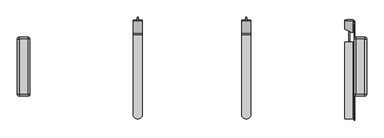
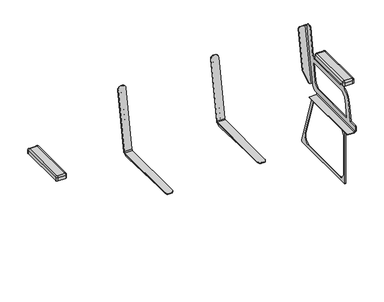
"""IFC4 building model written with IfcOpenShell, lengths in millimetres: furniture geometry, Roros Produkter - Trend - Bench - Backrest & Armrest - 32981 : Roros Produkter - Trend - Bench - Backrest & Armrest - 32981."""

from ifc_helpers import new_model, si_unit, point, frame, frame_2d, origin, place, context, project, spatial, polyline, circle_curve, ellipse_curve, trimmed, segment, composite_curve, outline, extrude, source, transform, mapped, element, save
from ifc_brep_helpers import plane_surface, cylinder_surface, revolved_surface, advanced_brep


def furniture_3cb17557(model_context):
    return source(origin(), model_context, "Body", "SolidModel", [
        advanced_brep(
        [(964.0, -180.9502129, 674.464), (964.0, -180.9502129, 653.464), (974.0, -170.9502129, 653.464), (974.0, -170.9502129, 674.464), (965.0, -170.9502129, 683.464), (964.0, -171.9502129, 683.464), (914.0, -180.9502129, 674.464), (914.0, -180.9502129, 653.464), (914.0, -171.9502129, 683.464), (904.0, -170.9502129, 674.464), (904.0, -170.9502129, 653.464), (913.0, -170.9502129, 683.464), (904.0, 139.0497871, 674.464), (904.0, 139.0497871, 653.464), (913.0, 139.0497871, 683.464), (914.0, 149.0497871, 674.464), (914.0, 149.0497871, 653.464), (914.0, 140.0497871, 683.464), (964.0, 149.0497871, 674.464), (964.0, 149.0497871, 653.464), (964.0, 140.0497871, 683.464), (974.0, 139.0497871, 674.464), (974.0, 139.0497871, 653.464), (965.0, 139.0497871, 683.464)],
        [
            (0, 1),
            (1, 2, circle_curve(frame((964.0, -170.9502129, 653.464), z_axis=(0.0, 0.0, 1.0), x_axis=(1.0, 0.0, 0.0)), 10.0)),
            (2, 3),
            (3, 0, circle_curve(frame((964.0, -170.9502129, 674.464), z_axis=(0.0, 0.0, -1.0), x_axis=(1.0, 0.0, 0.0)), 10.0)),
            (3, 4, circle_curve(frame((965.0, -170.9502129, 674.464), z_axis=(0.0, -1.0, 0.0), x_axis=(-1.0, 0.0, 0.0)), 9.0)),
            (4, 5, circle_curve(frame((964.0, -170.9502129, 683.464), z_axis=(0.0, 0.0, -1.0), x_axis=(1.0, 0.0, 0.0)), 1.0)),
            (5, 0, circle_curve(frame((964.0, -171.9502129, 674.464), z_axis=(1.0, 0.0, 0.0), x_axis=(0.0, 1.0, 0.0)), 9.0)),
            (0, 6),
            (6, 7),
            (7, 1),
            (5, 8),
            (8, 6, circle_curve(frame((914.0, -171.9502129, 674.464), z_axis=(1.0, 0.0, 0.0), x_axis=(0.0, 1.0, 0.0)), 9.0)),
            (6, 9, circle_curve(frame((914.0, -170.9502129, 674.464), z_axis=(0.0, 0.0, -1.0), x_axis=(0.0, -1.0, 0.0)), 10.0)),
            (9, 10),
            (10, 7, circle_curve(frame((914.0, -170.9502129, 653.464), z_axis=(0.0, 0.0, 1.0), x_axis=(0.0, -1.0, 0.0)), 10.0)),
            (8, 11, circle_curve(frame((914.0, -170.9502129, 683.464), z_axis=(0.0, 0.0, -1.0), x_axis=(0.0, -1.0, 0.0)), 1.0)),
            (11, 9, circle_curve(frame((913.0, -170.9502129, 674.464), z_axis=(0.0, -1.0, 0.0), x_axis=(1.0, 0.0, 0.0)), 9.0)),
            (9, 12),
            (12, 13),
            (13, 10),
            (11, 14),
            (14, 12, circle_curve(frame((913.0, 139.0497871, 674.464), z_axis=(0.0, -1.0, 0.0), x_axis=(1.0, 0.0, 0.0)), 9.0)),
            (12, 15, circle_curve(frame((914.0, 139.0497871, 674.464), z_axis=(0.0, 0.0, -1.0), x_axis=(-1.0, 0.0, 0.0)), 10.0)),
            (15, 16),
            (16, 13, circle_curve(frame((914.0, 139.0497871, 653.464), z_axis=(0.0, 0.0, 1.0), x_axis=(-1.0, 0.0, 0.0)), 10.0)),
            (14, 17, circle_curve(frame((914.0, 139.0497871, 683.464), z_axis=(0.0, 0.0, -1.0), x_axis=(-1.0, 0.0, 0.0)), 1.0)),
            (17, 15, circle_curve(frame((914.0, 140.0497871, 674.464), z_axis=(-1.0, 0.0, 0.0), x_axis=(0.0, -1.0, 0.0)), 9.0)),
            (15, 18),
            (18, 19),
            (19, 16),
            (17, 20),
            (20, 18, circle_curve(frame((964.0, 140.0497871, 674.464), z_axis=(-1.0, 0.0, 0.0), x_axis=(0.0, -1.0, 0.0)), 9.0)),
            (18, 21, circle_curve(frame((964.0, 139.0497871, 674.464), z_axis=(0.0, 0.0, -1.0), x_axis=(0.0, 1.0, 0.0)), 10.0)),
            (21, 22),
            (22, 19, circle_curve(frame((964.0, 139.0497871, 653.464), z_axis=(0.0, 0.0, 1.0), x_axis=(0.0, 1.0, 0.0)), 10.0)),
            (20, 23, circle_curve(frame((964.0, 139.0497871, 683.464), z_axis=(0.0, 0.0, -1.0), x_axis=(0.0, 1.0, 0.0)), 1.0)),
            (23, 21, circle_curve(frame((965.0, 139.0497871, 674.464), z_axis=(0.0, 1.0, 0.0), x_axis=(-1.0, 0.0, 0.0)), 9.0)),
            (2, 22),
            (21, 3),
            (23, 4),
        ],
        [
            cylinder_surface(frame((964.0, -170.9502129, 0.0), z_axis=(0.0, 0.0, 1.0), x_axis=(1.0, 0.0, 0.0)), 10.0),
            revolved_surface(trimmed(ellipse_curve(frame((965.0, -170.9502129, 674.464), z_axis=(0.0, -1.0, 0.0), x_axis=(-1.0, 0.0, 0.0)), 9.0, 9.0), [point((974.0, -170.9502129, 674.464))], [point((965.0, -170.9502129, 683.464))], True, "CARTESIAN"), (964.0, -170.9502129, 0.0), (0.0, 0.0, 1.0)),
            plane_surface(frame((964.0, -180.9502129, 653.464), z_axis=(0.0, -1.0, 0.0), x_axis=(-1.0, 0.0, 0.0))),
            cylinder_surface(frame((964.0, -171.9502129, 674.464), z_axis=(1.0, 0.0, 0.0), x_axis=(0.0, 1.0, 0.0)), 9.0),
            cylinder_surface(frame((914.0, -170.9502129, 0.0), z_axis=(0.0, 0.0, 1.0), x_axis=(0.0, -1.0, 0.0)), 10.0),
            revolved_surface(trimmed(ellipse_curve(frame((914.0, -171.9502129, 674.464), z_axis=(-1.0, 0.0, 0.0), x_axis=(0.0, 1.0, 0.0)), 9.0, 9.0), [point((914.0, -180.9502129, 674.464))], [point((914.0, -171.9502129, 683.464))], True, "CARTESIAN"), (914.0, -170.9502129, 0.0), (0.0, 0.0, 1.0)),
            plane_surface(frame((904.0, -170.9502129, 653.464), z_axis=(-1.0, 0.0, 0.0), x_axis=(0.0, 1.0, 0.0))),
            cylinder_surface(frame((913.0, -170.9502129, 674.464), z_axis=(0.0, -1.0, 0.0), x_axis=(1.0, 0.0, 0.0)), 9.0),
            cylinder_surface(frame((914.0, 139.0497871, 0.0), z_axis=(0.0, 0.0, 1.0), x_axis=(-1.0, 0.0, 0.0)), 10.0),
            revolved_surface(trimmed(ellipse_curve(frame((913.0, 139.0497871, 674.464), z_axis=(0.0, 1.0, 0.0), x_axis=(1.0, 0.0, 0.0)), 9.0, 9.0), [point((904.0, 139.0497871, 674.464))], [point((913.0, 139.0497871, 683.464))], True, "CARTESIAN"), (914.0, 139.0497871, 0.0), (0.0, 0.0, 1.0)),
            plane_surface(frame((914.0, 149.0497871, 653.464), z_axis=(0.0, 1.0, 0.0), x_axis=(1.0, 0.0, 0.0))),
            cylinder_surface(frame((914.0, 140.0497871, 674.464), z_axis=(-1.0, 0.0, 0.0), x_axis=(0.0, -1.0, 0.0)), 9.0),
            cylinder_surface(frame((964.0, 139.0497871, 0.0), z_axis=(0.0, 0.0, 1.0), x_axis=(0.0, 1.0, 0.0)), 10.0),
            revolved_surface(trimmed(ellipse_curve(frame((964.0, 140.0497871, 674.464), z_axis=(1.0, 0.0, 0.0), x_axis=(0.0, -1.0, 0.0)), 9.0, 9.0), [point((964.0, 149.0497871, 674.464))], [point((964.0, 140.0497871, 683.464))], True, "CARTESIAN"), (964.0, 139.0497871, 0.0), (0.0, 0.0, 1.0)),
            plane_surface(frame((974.0, 139.0497871, 653.464), z_axis=(1.0, 0.0, 0.0), x_axis=(0.0, -1.0, 0.0))),
            cylinder_surface(frame((965.0, 139.0497871, 674.464), z_axis=(0.0, 1.0, 0.0), x_axis=(-1.0, 0.0, 0.0)), 9.0),
            plane_surface(frame((965.0, 139.0497871, 653.464), z_axis=(0.0, 0.0, -1.0), x_axis=(0.0, -1.0, 0.0))),
            plane_surface(frame((964.0, 140.0497871, 683.464), z_axis=(0.0, 0.0, 1.0), x_axis=(1.0, 0.0, 0.0))),
        ],
        [
            (0, [[1, 2, 3, 4]]),
            (1, [[5, 6, 7, -4]]),
            (2, [[8, 9, 10, -1]]),
            (3, [[11, 12, -8, -7]]),
            (4, [[13, 14, 15, -9]]),
            (5, [[16, 17, -13, -12]]),
            (6, [[18, 19, 20, -14]]),
            (7, [[21, 22, -18, -17]]),
            (8, [[23, 24, 25, -19]]),
            (9, [[26, 27, -23, -22]]),
            (10, [[28, 29, 30, -24]]),
            (11, [[31, 32, -28, -27]]),
            (12, [[33, 34, 35, -29]]),
            (13, [[36, 37, -33, -32]]),
            (14, [[38, -34, 39, -3]]),
            (15, [[-39, -37, 40, -5]]),
            (16, [[-10, -15, -20, -25, -30, -35, -38, -2]]),
            (17, [[-40, -36, -31, -26, -21, -16, -11, -6]]),
        ],
    ),
        advanced_brep(
        [(-964.0, -180.9502129, 674.464), (-974.0, -170.9502129, 674.464), (-974.0, -170.9502129, 653.464), (-964.0, -180.9502129, 653.464), (-964.0, -171.9502129, 683.464), (-965.0, -170.9502129, 683.464), (-914.0, -180.9502129, 653.464), (-914.0, -180.9502129, 674.464), (-914.0, -171.9502129, 683.464), (-904.0, -170.9502129, 653.464), (-904.0, -170.9502129, 674.464), (-913.0, -170.9502129, 683.464), (-904.0, 139.0497871, 653.464), (-904.0, 139.0497871, 674.464), (-913.0, 139.0497871, 683.464), (-914.0, 149.0497871, 653.464), (-914.0, 149.0497871, 674.464), (-914.0, 140.0497871, 683.464), (-964.0, 149.0497871, 653.464), (-964.0, 149.0497871, 674.464), (-964.0, 140.0497871, 683.464), (-974.0, 139.0497871, 653.464), (-974.0, 139.0497871, 674.464), (-965.0, 139.0497871, 683.464)],
        [
            (0, 1, circle_curve(frame((-964.0, -170.9502129, 674.464), z_axis=(0.0, 0.0, -1.0), x_axis=(-1.0, 0.0, 0.0)), 10.0)),
            (1, 2),
            (2, 3, circle_curve(frame((-964.0, -170.9502129, 653.464), z_axis=(0.0, 0.0, 1.0), x_axis=(-1.0, 0.0, 0.0)), 10.0)),
            (3, 0),
            (0, 4, circle_curve(frame((-964.0, -171.9502129, 674.464), z_axis=(-1.0, 0.0, 0.0), x_axis=(0.0, 1.0, 0.0)), 9.0)),
            (4, 5, circle_curve(frame((-964.0, -170.9502129, 683.464), z_axis=(0.0, 0.0, -1.0), x_axis=(-1.0, 0.0, 0.0)), 1.0)),
            (5, 1, circle_curve(frame((-965.0, -170.9502129, 674.464), z_axis=(0.0, -1.0, 0.0), x_axis=(1.0, 0.0, 0.0)), 9.0)),
            (3, 6),
            (6, 7),
            (7, 0),
            (7, 8, circle_curve(frame((-914.0, -171.9502129, 674.464), z_axis=(-1.0, 0.0, 0.0), x_axis=(0.0, 1.0, 0.0)), 9.0)),
            (8, 4),
            (6, 9, circle_curve(frame((-914.0, -170.9502129, 653.464), z_axis=(0.0, 0.0, 1.0), x_axis=(0.0, -1.0, 0.0)), 10.0)),
            (9, 10),
            (10, 7, circle_curve(frame((-914.0, -170.9502129, 674.464), z_axis=(0.0, 0.0, -1.0), x_axis=(0.0, -1.0, 0.0)), 10.0)),
            (10, 11, circle_curve(frame((-913.0, -170.9502129, 674.464), z_axis=(0.0, -1.0, 0.0), x_axis=(-1.0, 0.0, 0.0)), 9.0)),
            (11, 8, circle_curve(frame((-914.0, -170.9502129, 683.464), z_axis=(0.0, 0.0, -1.0), x_axis=(0.0, -1.0, 0.0)), 1.0)),
            (9, 12),
            (12, 13),
            (13, 10),
            (13, 14, circle_curve(frame((-913.0, 139.0497871, 674.464), z_axis=(0.0, -1.0, 0.0), x_axis=(-1.0, 0.0, 0.0)), 9.0)),
            (14, 11),
            (12, 15, circle_curve(frame((-914.0, 139.0497871, 653.464), z_axis=(0.0, 0.0, 1.0), x_axis=(1.0, 0.0, 0.0)), 10.0)),
            (15, 16),
            (16, 13, circle_curve(frame((-914.0, 139.0497871, 674.464), z_axis=(0.0, 0.0, -1.0), x_axis=(1.0, 0.0, 0.0)), 10.0)),
            (16, 17, circle_curve(frame((-914.0, 140.0497871, 674.464), z_axis=(1.0, 0.0, 0.0), x_axis=(0.0, -1.0, 0.0)), 9.0)),
            (17, 14, circle_curve(frame((-914.0, 139.0497871, 683.464), z_axis=(0.0, 0.0, -1.0), x_axis=(1.0, 0.0, 0.0)), 1.0)),
            (15, 18),
            (18, 19),
            (19, 16),
            (19, 20, circle_curve(frame((-964.0, 140.0497871, 674.464), z_axis=(1.0, 0.0, 0.0), x_axis=(0.0, -1.0, 0.0)), 9.0)),
            (20, 17),
            (18, 21, circle_curve(frame((-964.0, 139.0497871, 653.464), z_axis=(0.0, 0.0, 1.0), x_axis=(0.0, 1.0, 0.0)), 10.0)),
            (21, 22),
            (22, 19, circle_curve(frame((-964.0, 139.0497871, 674.464), z_axis=(0.0, 0.0, -1.0), x_axis=(0.0, 1.0, 0.0)), 10.0)),
            (22, 23, circle_curve(frame((-965.0, 139.0497871, 674.464), z_axis=(0.0, 1.0, 0.0), x_axis=(1.0, 0.0, 0.0)), 9.0)),
            (23, 20, circle_curve(frame((-964.0, 139.0497871, 683.464), z_axis=(0.0, 0.0, -1.0), x_axis=(0.0, 1.0, 0.0)), 1.0)),
            (1, 22),
            (21, 2),
            (5, 23),
        ],
        [
            cylinder_surface(frame((-964.0, -170.9502129, 0.0), z_axis=(0.0, 0.0, 1.0), x_axis=(-1.0, 0.0, 0.0)), 10.0),
            revolved_surface(trimmed(ellipse_curve(frame((-965.0, -170.9502129, 674.464), z_axis=(0.0, 1.0, 0.0), x_axis=(1.0, 0.0, 0.0)), 9.0, 9.0), [point((-974.0, -170.9502129, 674.464))], [point((-965.0, -170.9502129, 683.464))], True, "CARTESIAN"), (-964.0, -170.9502129, 0.0), (0.0, 0.0, 1.0)),
            plane_surface(frame((-964.0, -180.9502129, 653.464), z_axis=(0.0, -1.0, 0.0), x_axis=(1.0, 0.0, 0.0))),
            cylinder_surface(frame((-964.0, -171.9502129, 674.464), z_axis=(-1.0, 0.0, 0.0), x_axis=(0.0, 1.0, 0.0)), 9.0),
            cylinder_surface(frame((-914.0, -170.9502129, 0.0), z_axis=(0.0, 0.0, 1.0), x_axis=(0.0, -1.0, 0.0)), 10.0),
            revolved_surface(trimmed(ellipse_curve(frame((-914.0, -171.9502129, 674.464), z_axis=(-1.0, 0.0, 0.0), x_axis=(0.0, 1.0, 0.0)), 9.0, 9.0), [point((-914.0, -180.9502129, 674.464))], [point((-914.0, -171.9502129, 683.464))], True, "CARTESIAN"), (-914.0, -170.9502129, 0.0), (0.0, 0.0, 1.0)),
            plane_surface(frame((-904.0, -170.9502129, 653.464), z_axis=(1.0, 0.0, 0.0), x_axis=(0.0, 1.0, 0.0))),
            cylinder_surface(frame((-913.0, -170.9502129, 674.464), z_axis=(0.0, -1.0, 0.0), x_axis=(-1.0, 0.0, 0.0)), 9.0),
            cylinder_surface(frame((-914.0, 139.0497871, 0.0), z_axis=(0.0, 0.0, 1.0), x_axis=(1.0, 0.0, 0.0)), 10.0),
            revolved_surface(trimmed(ellipse_curve(frame((-913.0, 139.0497871, 674.464), z_axis=(0.0, -1.0, 0.0), x_axis=(-1.0, 0.0, 0.0)), 9.0, 9.0), [point((-904.0, 139.0497871, 674.464))], [point((-913.0, 139.0497871, 683.464))], True, "CARTESIAN"), (-914.0, 139.0497871, 0.0), (0.0, 0.0, 1.0)),
            plane_surface(frame((-914.0, 149.0497871, 653.464), z_axis=(0.0, 1.0, 0.0), x_axis=(-1.0, 0.0, 0.0))),
            cylinder_surface(frame((-914.0, 140.0497871, 674.464), z_axis=(1.0, 0.0, 0.0), x_axis=(0.0, -1.0, 0.0)), 9.0),
            cylinder_surface(frame((-964.0, 139.0497871, 0.0), z_axis=(0.0, 0.0, 1.0), x_axis=(0.0, 1.0, 0.0)), 10.0),
            revolved_surface(trimmed(ellipse_curve(frame((-964.0, 140.0497871, 674.464), z_axis=(1.0, 0.0, 0.0), x_axis=(0.0, -1.0, 0.0)), 9.0, 9.0), [point((-964.0, 149.0497871, 674.464))], [point((-964.0, 140.0497871, 683.464))], True, "CARTESIAN"), (-964.0, 139.0497871, 0.0), (0.0, 0.0, 1.0)),
            plane_surface(frame((-974.0, 139.0497871, 653.464), z_axis=(-1.0, 0.0, 0.0), x_axis=(0.0, -1.0, 0.0))),
            cylinder_surface(frame((-965.0, 139.0497871, 674.464), z_axis=(0.0, 1.0, 0.0), x_axis=(1.0, 0.0, 0.0)), 9.0),
            plane_surface(frame((-965.0, 139.0497871, 653.464), z_axis=(0.0, 0.0, -1.0), x_axis=(0.0, -1.0, 0.0))),
            plane_surface(frame((-964.0, 140.0497871, 683.464), z_axis=(0.0, 0.0, 1.0), x_axis=(-1.0, 0.0, 0.0))),
        ],
        [
            (0, [[1, 2, 3, 4]]),
            (1, [[-1, 5, 6, 7]]),
            (2, [[-4, 8, 9, 10]]),
            (3, [[-5, -10, 11, 12]]),
            (4, [[-9, 13, 14, 15]]),
            (5, [[-11, -15, 16, 17]]),
            (6, [[-14, 18, 19, 20]]),
            (7, [[-16, -20, 21, 22]]),
            (8, [[-19, 23, 24, 25]]),
            (9, [[-21, -25, 26, 27]]),
            (10, [[-24, 28, 29, 30]]),
            (11, [[-26, -30, 31, 32]]),
            (12, [[-29, 33, 34, 35]]),
            (13, [[-31, -35, 36, 37]]),
            (14, [[-2, 38, -34, 39]]),
            (15, [[-7, 40, -36, -38]]),
            (16, [[-3, -39, -33, -28, -23, -18, -13, -8]]),
            (17, [[-6, -12, -17, -22, -27, -32, -37, -40]]),
        ],
    ),
        advanced_brep(
        [(-277.8, 170.6061321, 420.4221109), (-277.8, 164.6972856, 415.464), (-277.8, -286.9117181, 415.464), (-277.8, -286.9117181, 411.464), (-277.8, 168.8927837, 411.464), (-277.8, 173.8168225, 415.5957591), (-277.8, 242.3218103, 804.1068511), (-277.8, 238.3825793, 804.8014438), (-327.8, 173.8168225, 415.5957591), (-327.8, 168.8927837, 411.464), (-327.8, -286.9117181, 411.464), (-327.8, -286.9117181, 415.464), (-327.8, 164.6972856, 415.464), (-327.8, 170.6061321, 420.4221109), (-327.8, 238.3825793, 804.8014438), (-327.8, 242.3218103, 804.1068511), (-307.8, 245.7947739, 823.8030062), (-297.8, 245.7947739, 823.8030062), (-297.8, 241.8555429, 824.4975989), (-307.8, 241.8555429, 824.4975989), (-307.8, -306.9117181, 415.464), (-297.8, -306.9117181, 415.464), (-297.8, -306.9117181, 411.464), (-307.8, -306.9117181, 411.464)],
        [
            (0, 1, circle_curve(frame((-277.8, 164.6972856, 421.464), z_axis=(-1.0, 0.0, 0.0), x_axis=(0.0, -1.0, 0.0)), 6.0)),
            (1, 2),
            (2, 3),
            (3, 4),
            (4, 5, circle_curve(frame((-277.8, 168.8927837, 416.464), z_axis=(1.0, 0.0, 0.0), x_axis=(0.0, 0.6427876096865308, -0.7660444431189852)), 5.0)),
            (5, 6),
            (6, 7),
            (7, 0),
            (8, 9, circle_curve(frame((-327.8, 168.8927837, 416.464), z_axis=(-1.0, 0.0, 0.0), x_axis=(0.0, 0.6427876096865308, -0.7660444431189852)), 5.0)),
            (9, 10),
            (10, 11),
            (11, 12),
            (12, 13, circle_curve(frame((-327.8, 164.6972856, 421.464), z_axis=(1.0, 0.0, 0.0), x_axis=(0.0, -1.0, 0.0)), 6.0)),
            (13, 14),
            (14, 15),
            (15, 8),
            (5, 8),
            (15, 16, circle_curve(frame((-307.8, 242.3218103, 804.1068511), z_axis=(0.0, 0.9848077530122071, -0.173648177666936), x_axis=(0.0, 0.173648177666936, 0.9848077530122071)), 20.0)),
            (16, 17),
            (17, 6, circle_curve(frame((-297.8, 242.3218103, 804.1068511), z_axis=(0.0, 0.9848077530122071, -0.173648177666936), x_axis=(0.0, 0.173648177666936, 0.9848077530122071)), 20.0)),
            (13, 0),
            (7, 18, circle_curve(frame((-297.8, 238.3825793, 804.8014438), z_axis=(0.0, -0.9848077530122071, 0.173648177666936), x_axis=(0.0, 0.173648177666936, 0.9848077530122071)), 20.0)),
            (18, 19),
            (19, 14, circle_curve(frame((-307.8, 238.3825793, 804.8014438), z_axis=(0.0, -0.9848077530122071, 0.173648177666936), x_axis=(0.0, 0.173648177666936, 0.9848077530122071)), 20.0)),
            (12, 1),
            (11, 20, circle_curve(frame((-307.8, -286.9117181, 415.464), z_axis=(0.0, 0.0, 1.0), x_axis=(1.0, 0.0, 0.0)), 20.0)),
            (20, 21),
            (21, 2, circle_curve(frame((-297.8, -286.9117181, 415.464), z_axis=(0.0, 0.0, 1.0), x_axis=(1.0, 0.0, 0.0)), 20.0)),
            (9, 4),
            (3, 22, circle_curve(frame((-297.8, -286.9117181, 411.464), z_axis=(0.0, 0.0, -1.0), x_axis=(1.0, 0.0, 0.0)), 20.0)),
            (22, 23),
            (23, 10, circle_curve(frame((-307.8, -286.9117181, 411.464), z_axis=(0.0, 0.0, -1.0), x_axis=(1.0, 0.0, 0.0)), 20.0)),
            (18, 17),
            (16, 19),
            (22, 21),
            (20, 23),
        ],
        [
            plane_surface(frame((-277.8, 211.9142087, 631.6567726), z_axis=(1.0000000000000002, 0.0, 0.0), x_axis=(0.0, 0.17364817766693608, 0.9848077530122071))),
            plane_surface(frame((-327.8, 211.9142087, 631.6567726), z_axis=(-1.0000000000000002, 0.0, 0.0), x_axis=(0.0, -0.17364817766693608, -0.9848077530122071))),
            plane_surface(frame((-277.8, 173.8168225, 415.5957591), z_axis=(0.0, 0.9848077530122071, -0.17364817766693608), x_axis=(-1.0, 0.0, 0.0))),
            plane_surface(frame((-277.8, 242.8199075, 829.9667823), z_axis=(0.0, -0.9848077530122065, 0.1736481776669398), x_axis=(-1.0, 0.0, 0.0))),
            revolved_surface(polyline([(-327.8, 158.6972856, 421.464), (-277.8, 158.6972856, 421.464)]), (-327.8, 164.6972856, 421.464), (-1.0, 0.0, 0.0)),
            plane_surface(frame((-277.8, 164.6972856, 415.464), z_axis=(0.0, 0.0, 1.0), x_axis=(-1.0, 0.0, 0.0))),
            plane_surface(frame((-277.8, -312.0803438, 411.464), z_axis=(0.0, 0.0, -1.0), x_axis=(-1.0, 0.0, 0.0))),
            cylinder_surface(frame((-327.8, 168.8927837, 416.464), z_axis=(1.0, 0.0, 0.0), x_axis=(0.0, 0.6427876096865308, -0.7660444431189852)), 5.0),
            plane_surface(frame((-297.8, 251.6807108, 822.7651567), z_axis=(0.0, 0.17364817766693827, 0.9848077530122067), x_axis=(0.0, -0.9848077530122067, 0.17364817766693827))),
            cylinder_surface(frame((-307.8, 231.891661, 805.9459679), z_axis=(0.0, -0.9848077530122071, 0.173648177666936), x_axis=(0.0, 0.173648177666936, 0.9848077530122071)), 20.0),
            cylinder_surface(frame((-297.8, 231.891661, 805.9459679), z_axis=(0.0, -0.9848077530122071, 0.173648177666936), x_axis=(0.0, 0.173648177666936, 0.9848077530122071)), 20.0),
            plane_surface(frame((-297.8, -306.9117181, 428.6260903), z_axis=(0.0, -1.0, 0.0), x_axis=(0.0, 0.0, -1.0))),
            cylinder_surface(frame((-307.8, -286.9117181, 406.264), z_axis=(0.0, 0.0, -1.0), x_axis=(1.0, 0.0, 0.0)), 20.0),
            cylinder_surface(frame((-297.8, -286.9117181, 406.264), z_axis=(0.0, 0.0, -1.0), x_axis=(1.0, 0.0, 0.0)), 20.0),
        ],
        [
            (0, [[1, 2, 3, 4, 5, 6, 7, 8]]),
            (1, [[9, 10, 11, 12, 13, 14, 15, 16]]),
            (2, [[17, -16, 18, 19, 20, -6]]),
            (3, [[21, -8, 22, 23, 24, -14]]),
            (4, [[-1, -21, -13, 25]]),
            (5, [[-25, -12, 26, 27, 28, -2]]),
            (6, [[29, -4, 30, 31, 32, -10]]),
            (7, [[-5, -29, -9, -17]]),
            (8, [[33, -19, 34, -23]]),
            (9, [[-34, -18, -15, -24]]),
            (10, [[-33, -22, -7, -20]]),
            (11, [[35, -27, 36, -31]]),
            (12, [[-36, -26, -11, -32]]),
            (13, [[-35, -30, -3, -28]]),
        ],
    ),
        advanced_brep(
        [(277.8, 173.8168225, 415.5957591), (277.8, 168.8927837, 411.464), (277.8, -286.9117181, 411.464), (277.8, -286.9117181, 415.464), (277.8, 164.6972856, 415.464), (277.8, 170.6061321, 420.4221109), (277.8, 238.3825793, 804.8014438), (277.8, 242.3218103, 804.1068511), (327.8, 170.6061321, 420.4221109), (327.8, 164.6972856, 415.464), (327.8, -286.9117181, 415.464), (327.8, -286.9117181, 411.464), (327.8, 168.8927837, 411.464), (327.8, 173.8168225, 415.5957591), (327.8, 242.3218103, 804.1068511), (327.8, 238.3825793, 804.8014438), (297.8, 245.7947739, 823.8030062), (307.8, 245.7947739, 823.8030062), (307.8, 241.8555429, 824.4975989), (297.8, 241.8555429, 824.4975989), (297.8, -306.9117181, 415.464), (307.8, -306.9117181, 415.464), (307.8, -306.9117181, 411.464), (297.8, -306.9117181, 411.464)],
        [
            (0, 1, circle_curve(frame((277.8, 168.8927837, 416.464), z_axis=(-1.0, 0.0, 0.0), x_axis=(0.0, 0.6427876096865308, -0.7660444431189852)), 5.0)),
            (1, 2),
            (2, 3),
            (3, 4),
            (4, 5, circle_curve(frame((277.8, 164.6972856, 421.464), z_axis=(1.0, 0.0, 0.0), x_axis=(0.0, -1.0, 0.0)), 6.0)),
            (5, 6),
            (6, 7),
            (7, 0),
            (8, 9, circle_curve(frame((327.8, 164.6972856, 421.464), z_axis=(-1.0, 0.0, 0.0), x_axis=(0.0, -1.0, 0.0)), 6.0)),
            (9, 10),
            (10, 11),
            (11, 12),
            (12, 13, circle_curve(frame((327.8, 168.8927837, 416.464), z_axis=(1.0, 0.0, 0.0), x_axis=(0.0, 0.6427876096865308, -0.7660444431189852)), 5.0)),
            (13, 14),
            (14, 15),
            (15, 8),
            (13, 0),
            (7, 16, circle_curve(frame((297.8, 242.3218103, 804.1068511), z_axis=(0.0, 0.9848077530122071, -0.173648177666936), x_axis=(0.0, 0.173648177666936, 0.9848077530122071)), 20.0)),
            (16, 17),
            (17, 14, circle_curve(frame((307.8, 242.3218103, 804.1068511), z_axis=(0.0, 0.9848077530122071, -0.173648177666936), x_axis=(0.0, 0.173648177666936, 0.9848077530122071)), 20.0)),
            (5, 8),
            (15, 18, circle_curve(frame((307.8, 238.3825793, 804.8014438), z_axis=(0.0, -0.9848077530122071, 0.173648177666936), x_axis=(0.0, 0.173648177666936, 0.9848077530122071)), 20.0)),
            (18, 19),
            (19, 6, circle_curve(frame((297.8, 238.3825793, 804.8014438), z_axis=(0.0, -0.9848077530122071, 0.173648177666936), x_axis=(0.0, 0.173648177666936, 0.9848077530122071)), 20.0)),
            (4, 9),
            (3, 20, circle_curve(frame((297.8, -286.9117181, 415.464), z_axis=(0.0, 0.0, 1.0), x_axis=(-1.0, 0.0, 0.0)), 20.0)),
            (20, 21),
            (21, 10, circle_curve(frame((307.8, -286.9117181, 415.464), z_axis=(0.0, 0.0, 1.0), x_axis=(-1.0, 0.0, 0.0)), 20.0)),
            (1, 12),
            (11, 22, circle_curve(frame((307.8, -286.9117181, 411.464), z_axis=(0.0, 0.0, -1.0), x_axis=(-1.0, 0.0, 0.0)), 20.0)),
            (22, 23),
            (23, 2, circle_curve(frame((297.8, -286.9117181, 411.464), z_axis=(0.0, 0.0, -1.0), x_axis=(-1.0, 0.0, 0.0)), 20.0)),
            (18, 17),
            (16, 19),
            (22, 21),
            (20, 23),
        ],
        [
            plane_surface(frame((277.8, 172.1067218, 412.6337778), z_axis=(-1.0, 0.0, 0.0), x_axis=(0.0, -0.7660444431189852, -0.6427876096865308))),
            plane_surface(frame((327.8, 172.1067218, 412.6337778), z_axis=(1.0, 0.0, 0.0), x_axis=(0.0, 0.7660444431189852, 0.6427876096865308))),
            plane_surface(frame((277.8, 246.7591385, 829.2721896), z_axis=(0.0, 0.9848077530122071, -0.17364817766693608), x_axis=(1.0, 0.0, 0.0))),
            plane_surface(frame((277.8, 170.6061321, 420.4221109), z_axis=(0.0, -0.9848077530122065, 0.1736481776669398), x_axis=(1.0, 0.0, 0.0))),
            revolved_surface(polyline([(327.8, 158.6972856, 421.464), (277.8, 158.6972856, 421.464)]), (327.8, 164.6972856, 421.464), (1.0, 0.0, 0.0)),
            plane_surface(frame((277.8, -312.0803438, 415.464), z_axis=(0.0, 0.0, 1.0), x_axis=(1.0, 0.0, 0.0))),
            plane_surface(frame((277.8, 168.8927837, 411.464), z_axis=(0.0, 0.0, -1.0), x_axis=(1.0, 0.0, 0.0))),
            cylinder_surface(frame((327.8, 168.8927837, 416.464), z_axis=(-1.0, 0.0, 0.0), x_axis=(0.0, 0.6427876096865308, -0.7660444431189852)), 5.0),
            plane_surface(frame((307.8, 251.6807108, 822.7651567), z_axis=(0.0, 0.17364817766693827, 0.9848077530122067), x_axis=(0.0, -0.9848077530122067, 0.17364817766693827))),
            cylinder_surface(frame((307.8, 231.891661, 805.9459679), z_axis=(0.0, -0.9848077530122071, 0.173648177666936), x_axis=(0.0, 0.173648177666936, 0.9848077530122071)), 20.0),
            cylinder_surface(frame((297.8, 231.891661, 805.9459679), z_axis=(0.0, -0.9848077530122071, 0.173648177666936), x_axis=(0.0, 0.173648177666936, 0.9848077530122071)), 20.0),
            plane_surface(frame((307.8, -306.9117181, 428.6260903), z_axis=(0.0, -1.0, 0.0), x_axis=(0.0, 0.0, -1.0))),
            cylinder_surface(frame((307.8, -286.9117181, 406.264), z_axis=(0.0, 0.0, -1.0), x_axis=(-1.0, 0.0, 0.0)), 20.0),
            cylinder_surface(frame((297.8, -286.9117181, 406.264), z_axis=(0.0, 0.0, -1.0), x_axis=(-1.0, 0.0, 0.0)), 20.0),
        ],
        [
            (0, [[1, 2, 3, 4, 5, 6, 7, 8]]),
            (1, [[9, 10, 11, 12, 13, 14, 15, 16]]),
            (2, [[17, -8, 18, 19, 20, -14]]),
            (3, [[21, -16, 22, 23, 24, -6]]),
            (4, [[-5, 25, -9, -21]]),
            (5, [[-25, -4, 26, 27, 28, -10]]),
            (6, [[29, -12, 30, 31, 32, -2]]),
            (7, [[-1, -17, -13, -29]]),
            (8, [[33, -19, 34, -23]]),
            (9, [[-33, -22, -15, -20]]),
            (10, [[-34, -18, -7, -24]]),
            (11, [[35, -27, 36, -31]]),
            (12, [[-35, -30, -11, -28]]),
            (13, [[-36, -26, -3, -32]]),
        ],
    ),
        extrude(outline(composite_curve([segment(trimmed(circle_curve(frame_2d((179.0736722, 396.147219)), 30.0), [point((208.7798444, 391.9587426))], [point((177.7650906, 366.1757724))], False, "CARTESIAN"), True, "CONTINUOUS"), segment(polyline([(177.7650906, 366.1757724), (-267.7841058, 385.6288704)]), True, "CONTINUOUS"), segment(trimmed(circle_curve(frame_2d((-266.9117181, 405.6098348)), 20.0), [point((-267.7841058, 385.6288704))], [point((-286.9117181, 405.6098348))], False, "CARTESIAN"), True, "CONTINUOUS"), segment(polyline([(-286.9117181, 405.6098348), (-286.9117181, 411.464), (-282.6167614, 411.464), (-80.2604266, 411.464), (168.8927837, 411.464)]), True, "CONTINUOUS"), segment(trimmed(circle_curve(frame_2d((168.8927837, 416.464)), 5.0), [point((168.8927837, 411.464))], [point((173.8168225, 415.5957591))], True, "CARTESIAN"), True, "CONTINUOUS"), segment(polyline([(173.8168225, 415.5957591), (211.9142087, 631.6567726), (237.5075996, 776.8041052), (243.3935365, 775.7662557)]), True, "CONTINUOUS"), segment(trimmed(circle_curve(frame_2d((239.9205729, 756.0701006)), 20.0), [point((243.3935365, 775.7662557))], [point((259.7246877, 753.277783))], False, "CARTESIAN"), True, "CONTINUOUS"), segment(polyline([(259.7246877, 753.277783), (208.7798444, 391.9587426)]), True, "CONTINUOUS")], self_intersect=False)), frame((300.6, 0.0, 0.0), z_axis=(1.0, 0.0, 0.0), x_axis=(0.0, 1.0, 0.0)), (0.0, 0.0, 1.0), 4.4),
        extrude(outline(composite_curve([segment(trimmed(circle_curve(frame_2d((179.0736722, 396.147219)), 30.0), [point((208.7798444, 391.9587426))], [point((177.7650906, 366.1757724))], False, "CARTESIAN"), True, "CONTINUOUS"), segment(polyline([(177.7650906, 366.1757724), (-267.7841058, 385.6288704)]), True, "CONTINUOUS"), segment(trimmed(circle_curve(frame_2d((-266.9117181, 405.6098348)), 20.0), [point((-267.7841058, 385.6288704))], [point((-286.9117181, 405.6098348))], False, "CARTESIAN"), True, "CONTINUOUS"), segment(polyline([(-286.9117181, 405.6098348), (-286.9117181, 411.464), (-282.6167614, 411.464), (-80.2604266, 411.464), (168.8927837, 411.464)]), True, "CONTINUOUS"), segment(trimmed(circle_curve(frame_2d((168.8927837, 416.464)), 5.0), [point((168.8927837, 411.464))], [point((173.8168225, 415.5957591))], True, "CARTESIAN"), True, "CONTINUOUS"), segment(polyline([(173.8168225, 415.5957591), (211.9142087, 631.6567726), (237.5075996, 776.8041052), (243.3935365, 775.7662557)]), True, "CONTINUOUS"), segment(trimmed(circle_curve(frame_2d((239.9205729, 756.0701006)), 20.0), [point((243.3935365, 775.7662557))], [point((259.7246877, 753.277783))], False, "CARTESIAN"), True, "CONTINUOUS"), segment(polyline([(259.7246877, 753.277783), (208.7798444, 391.9587426)]), True, "CONTINUOUS")], self_intersect=False)), frame((-305.0, 0.0, 0.0), z_axis=(1.0, 0.0, 0.0), x_axis=(0.0, 1.0, 0.0)), (0.0, 0.0, 1.0), 4.4),
        advanced_brep(
        [(904.0, -307.8308404, 421.464), (898.0, -307.8308404, 415.464), (853.0, -307.8308404, 415.464), (853.0, -307.8308404, 411.464), (898.0, -307.8308404, 411.464), (908.0, -307.8308404, 421.464), (908.0, -307.8308404, 421.664), (904.0, -307.8308404, 421.664), (908.0, 121.742304, 421.464), (898.0, 121.742304, 411.464), (853.0, 121.742304, 411.464), (853.0, 121.742304, 415.464), (898.0, 121.742304, 415.464), (904.0, 121.742304, 421.464), (904.0, 121.742304, 421.664), (908.0, 121.742304, 421.664), (904.0, -236.7737044, 574.1342251), (904.0, -257.3458129, 457.464), (908.0, -257.3458129, 457.464), (908.0, -236.7737044, 574.1342251), (904.0, -307.8308404, 457.464), (908.0, -307.8308404, 457.464), (904.0, -317.8308404, 447.464), (908.0, -317.8308404, 447.464), (904.0, -317.8308404, 431.664), (908.0, -317.8308404, 431.664), (904.0, 123.242304, 421.664), (908.0, 123.242304, 421.664), (904.0, 171.5252579, 461.3391091), (908.0, 171.5252579, 461.3391091), (904.0, 171.7857301, 462.8163208), (908.0, 171.7857301, 462.8163208), (904.0, 235.6598072, 825.064213), (904.0, 227.5482115, 836.6487723), (908.0, 227.5482115, 836.6487723), (908.0, 235.6598072, 825.064213), (904.0, 211.988249, 839.3924135), (908.0, 211.988249, 839.3924135), (904.0, 200.4036897, 831.2808178), (908.0, 200.4036897, 831.2808178), (904.0, 169.0497871, 653.464), (908.0, 169.0497871, 653.464), (904.0, 150.5497871, 653.464), (908.0, 150.5497871, 653.464), (904.0, 150.5497871, 643.264), (908.0, 150.5497871, 643.264), (904.0, 149.0497871, 643.264), (908.0, 149.0497871, 643.264), (904.0, -142.2321601, 643.264), (904.0, -143.7321601, 643.264), (908.0, -143.7321601, 643.264), (908.0, -142.2321601, 643.264), (904.0, -143.7321601, 647.1509556), (908.0, -143.7321601, 647.1509556), (904.0, -150.2321601, 653.1300859), (908.0, -150.2321601, 653.1300859), (904.0, -142.2321601, 607.464), (904.0, 160.938746, 607.464), (908.0, 160.938746, 607.464), (908.0, -142.2321601, 607.464), (904.0, 141.775105, 498.7815911), (908.0, 141.775105, 498.7815911), (904.0, 92.5347173, 457.464), (908.0, 92.5347173, 457.464), (904.0, -210.6361888, 457.464), (908.0, -210.6361888, 457.464), (904.0, -191.4725478, 566.1464089), (908.0, -191.4725478, 566.1464089), (914.0, -142.2321601, 649.464), (950.0, -142.2321601, 649.464), (950.0, -142.2321601, 653.464), (914.0, -142.2321601, 653.464), (904.0, -142.2321601, 643.464), (908.0, -142.2321601, 643.464), (914.0, 149.0497871, 649.464), (908.0, 149.0497871, 643.464), (904.0, 149.0497871, 643.464), (914.0, 149.0497871, 653.464), (950.0, 149.0497871, 653.464), (950.0, 149.0497871, 649.464), (898.0, 241.7656153, 823.9875943), (904.0, 235.8567688, 825.0294834), (908.0, 235.8567688, 825.0294834), (898.0, 245.7048463, 823.2930016), (863.0, 245.7048463, 823.2930016), (863.0, 241.7656153, 823.9875943), (898.0, 181.8307692, 461.0451093), (908.0, 171.9826917, 462.7815911), (904.0, 171.9826917, 462.7815911), (898.0, 177.8915382, 461.7397021), (892.7989561, 177.8915382, 461.7397021), (892.7989561, 181.8307692, 461.0451093), (853.0, 240.0291335, 814.1395168), (853.0, 193.8264376, 552.1110073), (853.6045066, 193.2318427, 548.7388923), (883.4034627, 179.0334251, 468.2156645), (853.0, 243.9683646, 813.4449241), (853.0, 197.7656686, 551.4164146), (883.4034627, 182.9726561, 467.5210718), (853.6045066, 197.1710737, 548.0442996)],
        [
            (0, 1, circle_curve(frame((898.0, -307.8308404, 421.464), z_axis=(0.0, 1.0, 0.0), x_axis=(-1.0, 0.0, 0.0)), 6.0)),
            (1, 2),
            (2, 3),
            (3, 4),
            (4, 5, circle_curve(frame((898.0, -307.8308404, 421.464), z_axis=(0.0, -1.0, 0.0), x_axis=(-1.0, 0.0, 0.0)), 10.0)),
            (5, 6),
            (6, 7),
            (7, 0),
            (8, 9, circle_curve(frame((898.0, 121.742304, 421.464), z_axis=(0.0, 1.0, 0.0), x_axis=(-1.0, 0.0, 0.0)), 10.0)),
            (9, 10),
            (10, 11),
            (11, 12),
            (12, 13, circle_curve(frame((898.0, 121.742304, 421.464), z_axis=(0.0, -1.0, 0.0), x_axis=(-1.0, 0.0, 0.0)), 6.0)),
            (13, 14),
            (14, 15),
            (15, 8),
            (4, 9),
            (8, 5),
            (3, 10),
            (2, 11),
            (1, 12),
            (0, 13),
            (16, 17),
            (17, 18),
            (18, 19),
            (19, 16),
            (17, 20),
            (20, 21),
            (21, 18),
            (20, 22, circle_curve(frame((904.0, -307.8308404, 447.464), z_axis=(1.0, 0.0, 0.0), x_axis=(0.0, -1.0, 0.0)), 10.0)),
            (22, 23),
            (23, 21, circle_curve(frame((908.0, -307.8308404, 447.464), z_axis=(-1.0, 0.0, 0.0), x_axis=(0.0, -1.0, 0.0)), 10.0)),
            (22, 24),
            (24, 25),
            (25, 23),
            (24, 7, circle_curve(frame((904.0, -307.8308404, 431.664), z_axis=(1.0, 0.0, 0.0), x_axis=(0.0, -0.7071067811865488, -0.7071067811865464)), 10.0)),
            (6, 25, circle_curve(frame((908.0, -307.8308404, 431.664), z_axis=(-1.0, 0.0, 0.0), x_axis=(0.0, -0.7071067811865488, -0.7071067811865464)), 10.0)),
            (14, 26),
            (26, 27),
            (27, 15),
            (26, 28, circle_curve(frame((904.0, 122.6020398, 471.6599004), z_axis=(1.0, 0.0, 0.0), x_axis=(0.0, -0.9784643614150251, 0.20641582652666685)), 50.0)),
            (28, 29),
            (29, 27, circle_curve(frame((908.0, 122.6020398, 471.6599004), z_axis=(-1.0, 0.0, 0.0), x_axis=(0.0, -0.9784643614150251, 0.20641582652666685)), 50.0)),
            (28, 30),
            (30, 31),
            (31, 29),
            (32, 33, circle_curve(frame((904.0, 225.8117297, 826.8006948), z_axis=(1.0, 0.0, 0.0), x_axis=(0.0, 0.8191520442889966, 0.5735764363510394)), 10.0)),
            (33, 34),
            (34, 35, circle_curve(frame((908.0, 225.8117297, 826.8006948), z_axis=(-1.0, 0.0, 0.0), x_axis=(0.0, 0.8191520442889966, 0.5735764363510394)), 10.0)),
            (35, 32),
            (33, 36),
            (36, 37),
            (37, 34),
            (36, 38, circle_curve(frame((904.0, 210.2517672, 829.544336), z_axis=(1.0, 0.0, 0.0), x_axis=(0.0, -0.9848077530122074, 0.17364817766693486)), 10.0)),
            (38, 39),
            (39, 37, circle_curve(frame((908.0, 210.2517672, 829.544336), z_axis=(-1.0, 0.0, 0.0), x_axis=(0.0, -0.9848077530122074, 0.17364817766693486)), 10.0)),
            (38, 40),
            (40, 41),
            (41, 39),
            (40, 42),
            (42, 43),
            (43, 41),
            (42, 44),
            (44, 45),
            (45, 43),
            (44, 46),
            (46, 47),
            (47, 45),
            (48, 49),
            (49, 50),
            (50, 51),
            (51, 48),
            (49, 52),
            (52, 53),
            (53, 50),
            (52, 54, circle_curve(frame((904.0, -149.7321601, 647.1509556), z_axis=(1.0, 0.0, 0.0), x_axis=(0.0, 0.6770032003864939, 0.7359800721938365)), 6.0)),
            (54, 55),
            (55, 53, circle_curve(frame((908.0, -149.7321601, 647.1509556), z_axis=(-1.0, 0.0, 0.0), x_axis=(0.0, 0.6770032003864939, 0.7359800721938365)), 6.0)),
            (54, 16, circle_curve(frame((904.0, -142.2321601, 557.464), z_axis=(1.0, 0.0, 0.0), x_axis=(0.0, -0.9848077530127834, 0.17364817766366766)), 96.0)),
            (19, 55, circle_curve(frame((908.0, -142.2321601, 557.464), z_axis=(-1.0, 0.0, 0.0), x_axis=(0.0, -0.9848077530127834, 0.17364817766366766)), 96.0)),
            (56, 57),
            (57, 58),
            (58, 59),
            (59, 56),
            (57, 60),
            (60, 61),
            (61, 58),
            (60, 62, circle_curve(frame((904.0, 92.5347173, 507.464), z_axis=(-1.0, 0.0, 0.0), x_axis=(0.0, -0.9848077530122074, 0.17364817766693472)), 50.0)),
            (62, 63),
            (63, 61, circle_curve(frame((908.0, 92.5347173, 507.464), z_axis=(1.0, 0.0, 0.0), x_axis=(0.0, -0.9848077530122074, 0.17364817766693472)), 50.0)),
            (62, 64),
            (64, 65),
            (65, 63),
            (64, 66),
            (66, 67),
            (67, 65),
            (66, 56, circle_curve(frame((904.0, -142.2321601, 557.464), z_axis=(-1.0, 0.0, 0.0), x_axis=(0.0, 0.984807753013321, -0.17364817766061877)), 50.0)),
            (59, 67, circle_curve(frame((908.0, -142.2321601, 557.464), z_axis=(1.0, 0.0, 0.0), x_axis=(0.0, 0.984807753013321, -0.17364817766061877)), 50.0)),
            (68, 69),
            (69, 70),
            (70, 71),
            (71, 72, circle_curve(frame((914.0, -142.2321601, 643.464), z_axis=(0.0, -1.0, 0.0), x_axis=(-1.0, 0.0, 0.0)), 10.0)),
            (72, 48),
            (51, 73),
            (73, 68, circle_curve(frame((914.0, -142.2321601, 643.464), z_axis=(0.0, 1.0, 0.0), x_axis=(-1.0, 0.0, 0.0)), 6.0)),
            (74, 75, circle_curve(frame((914.0, 149.0497871, 643.464), z_axis=(0.0, -1.0, 0.0), x_axis=(-1.0, 0.0, 0.0)), 6.0)),
            (75, 47),
            (46, 76),
            (76, 77, circle_curve(frame((914.0, 149.0497871, 643.464), z_axis=(0.0, 1.0, 0.0), x_axis=(-1.0, 0.0, 0.0)), 10.0)),
            (77, 78),
            (78, 79),
            (79, 74),
            (73, 75),
            (74, 68),
            (71, 77),
            (76, 72),
            (70, 78),
            (69, 79),
            (80, 81, circle_curve(frame((898.0, 235.8567688, 825.0294834), z_axis=(0.0, -0.1736481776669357, -0.9848077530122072), x_axis=(0.0, 0.9848077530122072, -0.1736481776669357)), 6.0)),
            (81, 32),
            (35, 82),
            (82, 83, circle_curve(frame((898.0, 235.8567688, 825.0294834), z_axis=(0.0, 0.1736481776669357, 0.9848077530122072), x_axis=(0.0, 0.9848077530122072, -0.1736481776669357)), 10.0)),
            (83, 84),
            (84, 85),
            (85, 80),
            (86, 87, circle_curve(frame((898.0, 171.9826917, 462.7815911), z_axis=(0.0, -0.1736481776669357, -0.9848077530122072), x_axis=(0.0, 0.9848077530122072, -0.1736481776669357)), 10.0)),
            (87, 31),
            (30, 88),
            (88, 89, circle_curve(frame((898.0, 171.9826917, 462.7815911), z_axis=(0.0, 0.1736481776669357, 0.9848077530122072), x_axis=(0.0, 0.9848077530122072, -0.1736481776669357)), 6.0)),
            (89, 90),
            (90, 91),
            (91, 86),
            (82, 87),
            (86, 83),
            (81, 88),
            (80, 89),
            (85, 92, circle_curve(frame((863.0, 240.0291335, 814.1395168), z_axis=(0.0, -0.9848077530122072, 0.1736481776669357), x_axis=(1.0, 0.0, 0.0)), 10.0)),
            (92, 93),
            (93, 94, circle_curve(frame((863.0, 193.8264376, 552.1110073), z_axis=(0.0, -0.9848077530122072, 0.1736481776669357), x_axis=(1.0, 0.0, 0.0)), 10.0)),
            (94, 95),
            (95, 90, circle_curve(frame((892.7989561, 179.62802, 471.5877796), z_axis=(0.0, -0.9848077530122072, 0.1736481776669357), x_axis=(1.0, 0.0, 0.0)), 10.0)),
            (92, 96),
            (96, 97),
            (97, 93),
            (91, 98, circle_curve(frame((892.7989561, 183.567251, 470.8931869), z_axis=(0.0, 0.9848077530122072, -0.1736481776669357), x_axis=(1.0, 0.0, 0.0)), 10.0)),
            (98, 99),
            (99, 97, circle_curve(frame((863.0, 197.7656686, 551.4164146), z_axis=(0.0, 0.9848077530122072, -0.1736481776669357), x_axis=(1.0, 0.0, 0.0)), 10.0)),
            (96, 84, circle_curve(frame((863.0, 243.9683646, 813.4449241), z_axis=(0.0, 0.9848077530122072, -0.1736481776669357), x_axis=(1.0, 0.0, 0.0)), 10.0)),
            (95, 98),
            (94, 99),
        ],
        [
            plane_surface(frame((904.0, -307.8308404, 421.664), z_axis=(0.0, -1.0, 0.0), x_axis=(0.0, 0.0, -1.0))),
            plane_surface(frame((904.0, 121.742304, 421.664), z_axis=(0.0, 1.0, 0.0), x_axis=(0.0, 0.0, 1.0))),
            cylinder_surface(frame((898.0, 121.742304, 421.464), z_axis=(0.0, -1.0, 0.0), x_axis=(-1.0, 0.0, 0.0)), 10.0),
            plane_surface(frame((853.0, -307.8308404, 411.464), z_axis=(0.0, 0.0, -1.0), x_axis=(0.0, 1.0, 0.0))),
            plane_surface(frame((853.0, -307.8308404, 415.464), z_axis=(-1.0, 0.0, 0.0), x_axis=(0.0, 1.0, 0.0))),
            plane_surface(frame((898.0, -307.8308404, 415.464), z_axis=(0.0, 0.0, 1.0), x_axis=(0.0, 1.0, 0.0))),
            revolved_surface(polyline([(892.0, 121.742304, 421.464), (892.0, -307.8308404, 421.464)]), (898.0, 121.742304, 421.464), (0.0, 1.0, 0.0)),
            plane_surface(frame((904.0, -257.3458129, 457.464), z_axis=(0.0, -0.9848077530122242, 0.17364817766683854), x_axis=(1.0, 0.0, 0.0))),
            plane_surface(frame((904.0, -307.8308404, 457.464), z_axis=(0.0, 0.0, 1.0), x_axis=(1.0, 0.0, 0.0))),
            cylinder_surface(frame((908.0, -307.8308404, 447.464), z_axis=(-1.0, 0.0, 0.0), x_axis=(0.0, -1.0, 0.0)), 10.0),
            plane_surface(frame((904.0, -317.8308404, 431.664), z_axis=(0.0, -1.0, 0.0), x_axis=(1.0, 0.0, 0.0))),
            cylinder_surface(frame((908.0, -307.8308404, 431.664), z_axis=(-1.0, 0.0, 0.0), x_axis=(0.0, -0.7071067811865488, -0.7071067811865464)), 10.0),
            plane_surface(frame((904.0, 123.242304, 421.664), z_axis=(0.0, 0.0, -1.0), x_axis=(1.0, 0.0, 0.0))),
            cylinder_surface(frame((908.0, 122.6020398, 471.6599004), z_axis=(-1.0, 0.0, 0.0), x_axis=(0.0, -0.9784643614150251, 0.20641582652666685)), 50.0),
            plane_surface(frame((904.0, 171.7857301, 462.8163208), z_axis=(0.0, 0.9848077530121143, -0.1736481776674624), x_axis=(1.0, 0.0, 0.0))),
            cylinder_surface(frame((908.0, 225.8117297, 826.8006948), z_axis=(-1.0000000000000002, 0.0, 0.0), x_axis=(0.0, 0.8191520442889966, 0.5735764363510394)), 10.0),
            plane_surface(frame((904.0, 211.988249, 839.3924135), z_axis=(0.0, 0.1736481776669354, 0.9848077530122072), x_axis=(1.0, 0.0, 0.0))),
            cylinder_surface(frame((908.0, 210.2517672, 829.544336), z_axis=(-1.0000000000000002, 0.0, 0.0), x_axis=(0.0, -0.9848077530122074, 0.17364817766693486)), 10.0),
            plane_surface(frame((904.0, 169.0497871, 653.464), z_axis=(0.0, -0.9848077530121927, 0.17364817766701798), x_axis=(1.0, 0.0, 0.0))),
            plane_surface(frame((904.0, 150.5497871, 653.464), z_axis=(0.0, 0.0, 1.0), x_axis=(1.0, 0.0, 0.0))),
            plane_surface(frame((904.0, 150.5497871, 643.264), z_axis=(0.0, -1.0, 0.0), x_axis=(1.0, 0.0, 0.0))),
            plane_surface(frame((904.0, 149.0497871, 643.264), z_axis=(0.0, 0.0, 1.0), x_axis=(1.0, 0.0, 0.0))),
            plane_surface(frame((904.0, -143.7321601, 643.264), z_axis=(0.0, 0.0, 1.0), x_axis=(1.0, 0.0, 0.0))),
            plane_surface(frame((904.0, -143.7321601, 647.1509556), z_axis=(0.0, 1.0, 0.0), x_axis=(1.0, 0.0, 0.0))),
            cylinder_surface(frame((908.0, -149.7321601, 647.1509556), z_axis=(-1.0, 0.0, 0.0), x_axis=(0.0, 0.6770032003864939, 0.7359800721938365)), 6.0),
            cylinder_surface(frame((908.0, -142.2321601, 557.464), z_axis=(-1.0000000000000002, 0.0, 0.0), x_axis=(0.0, -0.9848077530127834, 0.17364817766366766)), 96.0),
            plane_surface(frame((904.0, 160.938746, 607.464), z_axis=(0.0, 0.0, -1.0), x_axis=(1.0, 0.0, 0.0))),
            plane_surface(frame((904.0, 141.775105, 498.7815911), z_axis=(0.0, -0.9848077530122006, 0.17364817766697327), x_axis=(1.0, 0.0, 0.0))),
            revolved_surface(polyline([(908.0, 43.29432964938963, 516.1464088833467), (904.0, 43.29432964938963, 516.1464088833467)]), (0.0, 92.5347173, 507.464), (1.0, 0.0, 0.0)),
            plane_surface(frame((904.0, -210.6361888, 457.464), z_axis=(0.0, 0.0, 1.0), x_axis=(1.0, 0.0, 0.0))),
            plane_surface(frame((904.0, -191.4725478, 566.1464089), z_axis=(0.0, 0.984807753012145, -0.1736481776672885), x_axis=(1.0, 0.0, 0.0))),
            revolved_surface(polyline([(908.0000000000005, -92.99177244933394, 548.7815911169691), (904.0000000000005, -92.99177244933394, 548.7815911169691)]), (0.0, -142.2321601, 557.464), (1.0000000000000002, 0.0, 0.0)),
            plane_surface(frame((950.0, -142.2321601, 649.464), z_axis=(0.0, -1.0, 0.0), x_axis=(1.0, 0.0, 0.0))),
            plane_surface(frame((950.0, 149.0497871, 649.464), z_axis=(0.0, 1.0, 0.0), x_axis=(-1.0, 0.0, 0.0))),
            revolved_surface(polyline([(908.0, 149.0497871, 643.464), (908.0, -142.2321601, 643.464)]), (914.0, 149.0497871, 643.464), (0.0, 1.0, 0.0)),
            cylinder_surface(frame((914.0, 149.0497871, 643.464), z_axis=(0.0, -1.0, 0.0), x_axis=(-1.0, 0.0, 0.0)), 10.0),
            plane_surface(frame((950.0, -142.2321601, 653.464), z_axis=(0.0, 0.0, 1.0), x_axis=(0.0, 1.0, 0.0))),
            plane_surface(frame((950.0, -142.2321601, 649.464), z_axis=(1.0, 0.0, 0.0), x_axis=(0.0, 1.0, 0.0))),
            plane_surface(frame((914.0, -142.2321601, 649.464), z_axis=(0.0, 0.0, -1.0), x_axis=(0.0, 1.0, 0.0))),
            plane_surface(frame((853.0, 245.7048463, 823.2930016), z_axis=(0.0, 0.1736481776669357, 0.9848077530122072), x_axis=(-1.0, 0.0, 0.0))),
            plane_surface(frame((853.0, 181.8307692, 461.0451093), z_axis=(0.0, -0.1736481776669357, -0.9848077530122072), x_axis=(1.0, 0.0, 0.0))),
            cylinder_surface(frame((898.0, 171.9826917, 462.7815911), z_axis=(0.0, 0.1736481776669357, 0.9848077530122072), x_axis=(0.0, 0.9848077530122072, -0.1736481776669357)), 10.0),
            plane_surface(frame((908.0, 219.7091835, 827.8767384), z_axis=(1.0000000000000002, 0.0, 0.0), x_axis=(0.0, -0.1736481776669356, -0.9848077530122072))),
            plane_surface(frame((904.0, 235.8567688, 825.0294834), z_axis=(-1.0000000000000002, 0.0, 0.0), x_axis=(0.0, -0.17364817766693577, -0.9848077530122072))),
            revolved_surface(polyline([(898.0, 177.89153821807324, 461.7397020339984), (898.0, 241.76561533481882, 823.9875943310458)]), (898.0, 171.9826917, 462.7815911), (0.0, -0.1736481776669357, -0.9848077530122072)),
            plane_surface(frame((853.0, 241.7656153, 823.9875943), z_axis=(0.0, -0.9848077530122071, 0.17364817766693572), x_axis=(0.0, -0.17364817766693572, -0.9848077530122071))),
            plane_surface(frame((853.0, 245.7048463, 823.2930016), z_axis=(-1.0, 0.0, 0.0), x_axis=(0.0, -0.17364817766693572, -0.9848077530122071))),
            plane_surface(frame((898.0, 245.7048463, 823.2930016), z_axis=(0.0, 0.9848077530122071, -0.17364817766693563), x_axis=(0.0, -0.17364817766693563, -0.9848077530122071))),
            cylinder_surface(frame((892.7989561, 173.5222119, 472.6643983), z_axis=(0.0, -0.9848077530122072, 0.1736481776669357), x_axis=(1.0, 0.0, 0.0)), 10.0),
            plane_surface(frame((853.6045066, 212.8703774, 545.2760887), z_axis=(-0.9395493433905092, -0.0594594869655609, -0.3372115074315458), x_axis=(0.0, -0.9848077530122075, 0.1736481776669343))),
            cylinder_surface(frame((863.0, 187.7206295, 553.187626), z_axis=(0.0, -0.9848077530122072, 0.1736481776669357), x_axis=(1.0, 0.0, 0.0)), 10.0),
            cylinder_surface(frame((863.0, 233.9233255, 815.2161355), z_axis=(0.0, -0.9848077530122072, 0.1736481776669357), x_axis=(1.0, 0.0, 0.0)), 10.0),
        ],
        [
            (0, [[1, 2, 3, 4, 5, 6, 7, 8]]),
            (1, [[9, 10, 11, 12, 13, 14, 15, 16]]),
            (2, [[-5, 17, -9, 18]]),
            (3, [[-4, 19, -10, -17]]),
            (4, [[-3, 20, -11, -19]]),
            (5, [[-2, 21, -12, -20]]),
            (6, [[-1, 22, -13, -21]]),
            (7, [[23, 24, 25, 26]]),
            (8, [[27, 28, 29, -24]]),
            (9, [[30, 31, 32, -28]]),
            (10, [[33, 34, 35, -31]]),
            (11, [[36, -7, 37, -34]]),
            (12, [[38, 39, 40, -15]]),
            (13, [[41, 42, 43, -39]]),
            (14, [[44, 45, 46, -42]]),
            (15, [[47, 48, 49, 50]]),
            (16, [[51, 52, 53, -48]]),
            (17, [[54, 55, 56, -52]]),
            (18, [[57, 58, 59, -55]]),
            (19, [[60, 61, 62, -58]]),
            (20, [[63, 64, 65, -61]]),
            (21, [[66, 67, 68, -64]]),
            (22, [[69, 70, 71, 72]]),
            (23, [[73, 74, 75, -70]]),
            (24, [[76, 77, 78, -74]]),
            (25, [[79, -26, 80, -77]]),
            (26, [[81, 82, 83, 84]]),
            (27, [[85, 86, 87, -82]]),
            (28, [[88, 89, 90, -86]]),
            (29, [[91, 92, 93, -89]]),
            (30, [[94, 95, 96, -92]]),
            (31, [[97, -84, 98, -95]]),
            (32, [[99, 100, 101, 102, 103, -72, 104, 105]]),
            (33, [[106, 107, -67, 108, 109, 110, 111, 112]]),
            (34, [[-105, 113, -106, 114]]),
            (35, [[-102, 115, -109, 116]]),
            (36, [[-101, 117, -110, -115]]),
            (37, [[-100, 118, -111, -117]]),
            (38, [[-99, -114, -112, -118]]),
            (39, [[119, 120, -50, 121, 122, 123, 124, 125]]),
            (40, [[126, 127, -45, 128, 129, 130, 131, 132]]),
            (41, [[-122, 133, -126, 134]]),
            (42, [[-133, -121, -49, -53, -56, -59, -62, -65, -68, -107, -113, -104, -71, -75, -78, -80, -25, -29, -32, -35, -37, -6, -18, -16, -40, -43, -46, -127], [-83, -87, -90, -93, -96, -98]]),
            (43, [[135, -128, -44, -41, -38, -14, -22, -8, -36, -33, -30, -27, -23, -79, -76, -73, -69, -103, -116, -108, -66, -63, -60, -57, -54, -51, -47, -120], [-97, -94, -91, -88, -85, -81]]),
            (44, [[-119, 136, -129, -135]]),
            (45, [[-136, -125, 137, 138, 139, 140, 141, -130]]),
            (46, [[-138, 142, 143, 144]]),
            (47, [[-134, -132, 145, 146, 147, -143, 148, -123]]),
            (48, [[149, -145, -131, -141]]),
            (49, [[-149, -140, 150, -146]]),
            (50, [[-150, -139, -144, -147]]),
            (51, [[-124, -148, -142, -137]]),
        ],
    ),
        extrude(outline(composite_curve([segment(trimmed(circle_curve(frame_2d((238.4053404, 31.7)), 6.0), [point((244.1116795, 33.554102))], [point((238.4053404, 25.7))], False, "CARTESIAN"), True, "CONTINUOUS"), segment(polyline([(238.4053404, 25.7), (-237.8308404, 25.7)]), True, "CONTINUOUS"), segment(trimmed(circle_curve(frame_2d((-237.8308404, 31.7)), 6.0), [point((-237.8308404, 25.7))], [point((-243.8308404, 31.7))], False, "CARTESIAN"), True, "CONTINUOUS"), segment(polyline([(-243.8308404, 31.7), (-243.8308404, 401.464)]), True, "CONTINUOUS"), segment(trimmed(circle_curve(frame_2d((-237.8308404, 401.464)), 6.0), [point((-243.8308404, 401.464))], [point((-237.8308404, 407.464))], False, "CARTESIAN"), True, "CONTINUOUS"), segment(polyline([(-237.8308404, 407.464), (-127.8308404, 407.464), (-127.8308404, 392.464), (-178.8308404, 392.464)]), True, "CONTINUOUS"), segment(trimmed(circle_curve(frame_2d((-178.8308404, 342.464)), 50.0), [point((-178.8308404, 392.464))], [point((-228.8308404, 342.464))], True, "CARTESIAN"), True, "CONTINUOUS"), segment(polyline([(-228.8308404, 342.464), (-228.8308404, 91.2638836)]), True, "CONTINUOUS"), segment(trimmed(circle_curve(frame_2d((-178.8308404, 91.2638836)), 50.0), [point((-228.8308404, 91.2638836))], [point((-178.8308404, 41.2638836))], True, "CARTESIAN"), True, "CONTINUOUS"), segment(polyline([(-178.8308404, 41.2638836), (157.0155902, 41.2638836)]), True, "CONTINUOUS"), segment(trimmed(circle_curve(frame_2d((157.0155902, 91.2638836)), 50.0), [point((157.0155902, 41.2638836))], [point((204.568416, 106.7147333))], True, "CARTESIAN"), True, "CONTINUOUS"), segment(polyline([(204.568416, 106.7147333), (123.0135722, 357.7147333)]), True, "CONTINUOUS"), segment(trimmed(circle_curve(frame_2d((75.4607464, 342.2638836)), 50.0), [point((123.0135722, 357.7147333))], [point((75.4607464, 392.2638836))], True, "CARTESIAN"), True, "CONTINUOUS"), segment(polyline([(75.4607464, 392.2638836), (-4.4728031, 392.2638836), (-4.4728031, 407.4638836), (118.2617716, 407.4638836)]), True, "CONTINUOUS"), segment(trimmed(circle_curve(frame_2d((118.2617716, 401.4638836)), 6.0), [point((118.2617716, 407.4638836))], [point((123.9681107, 403.3179856))], False, "CARTESIAN"), True, "CONTINUOUS"), segment(polyline([(123.9681107, 403.3179856), (244.1116795, 33.554102)]), True, "CONTINUOUS")], self_intersect=False)), frame((875.8, 0.0, 0.0), z_axis=(1.0, 0.0, 0.0), x_axis=(0.0, 1.0, 0.0)), (0.0, 0.0, 1.0), 4.0),
    ])


if __name__ == "__main__":
    model = new_model("IFC4")
    model_context = context("Model", 3, world=origin())
    ifc_project = project(units=[si_unit("LENGTHUNIT", "METRE", prefix="MILLI")], contexts=[model_context])
    site = spatial("IfcSite", under=ifc_project)
    building = spatial("IfcBuilding", under=site)
    placement = place(None, origin())
    furniture_shape = furniture_3cb17557(model_context)
    element("IfcFurniture", 1, ObjectType="Roros Produkter - Trend - Bench - Backrest & Armrest - 32981 : Roros Produkter - Trend - Bench - Backrest & Armrest - 32981", at=placement, inside=building, context=model_context, shape_type="MappedRepresentation", body=[
        mapped(furniture_shape, transform((0.0, 0.0, 0.0), x_axis=(1.0, 0.0, 0.0), y_axis=(0.0, 1.0, 0.0), z_axis=(0.0, 0.0, 1.0))),
    ])
    save(model, "model.ifc")
